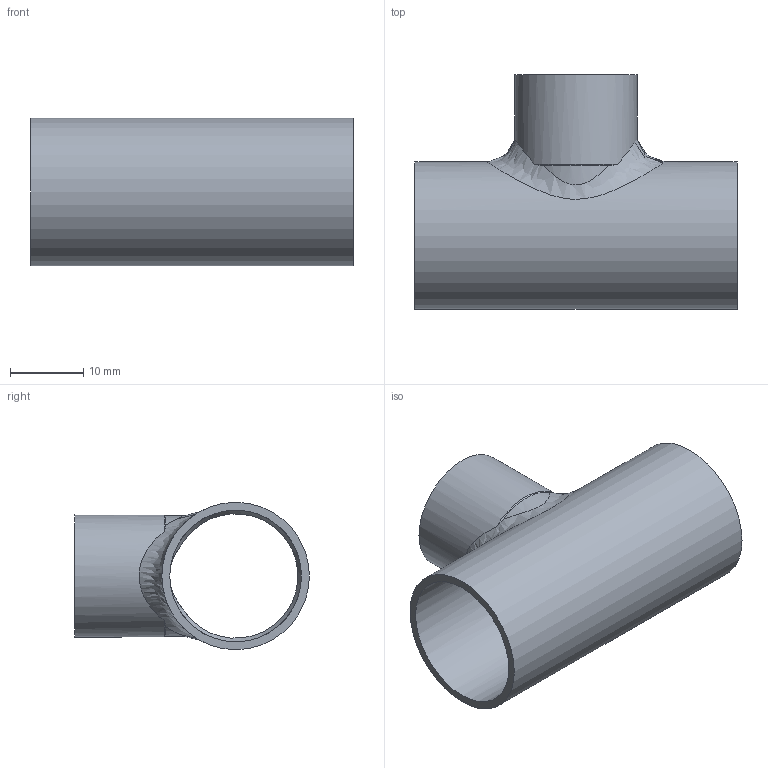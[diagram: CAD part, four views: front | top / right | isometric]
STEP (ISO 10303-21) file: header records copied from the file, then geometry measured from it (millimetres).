
FILE_DESCRIPTION(/* description */ (''),/* implementation_level */ '2;1');
FILE_NAME(/* name */ 'G:\Technik\Management\ontwikkeling\Ontwikkeling + Leveringsdokumenten + proefberichten\Sanha Ternat\Ternat 2024\Step files\5130181518_3d gem.stp',/* time_stamp */ '2024-02-27T14:13:43+01:00',/* author */ ('vdvijverd'),/* organization */ (''),/* preprocessor_version */ 'ST-DEVELOPER v19',/* originating_system */ 'Autodesk Inventor 2023',/* authorisation */ '');
FILE_SCHEMA (('AUTOMOTIVE_DESIGN { 1 0 10303 214 3 1 1 }'));
Length unit declared in the file: millimetre
Products named in the file (1): 5130181518_3d gem
Bounding box: 44 x 32.08 x 20.15 mm (x, y, z)
Volume: 3645.1 mm3; surface area: 6392.6 mm2
Topology: 1 solids, 1 shells, 21 faces, 58 edges, 39 vertices
Faces by surface type: cylinder 10, cone 6, plane 3, bspline 2
Full cylindrical faces by diameter (mm): 15 x1, 16.7 x1, 18 x2, 20.15 x1
Entity records: 1266 total; most frequent: CARTESIAN_POINT 721, ORIENTED_EDGE 116, DIRECTION 88, EDGE_CURVE 58, AXIS2_PLACEMENT_3D 41, VERTEX_POINT 39, B_SPLINE_CURVE_WITH_KNOTS 31, EDGE_LOOP 25
